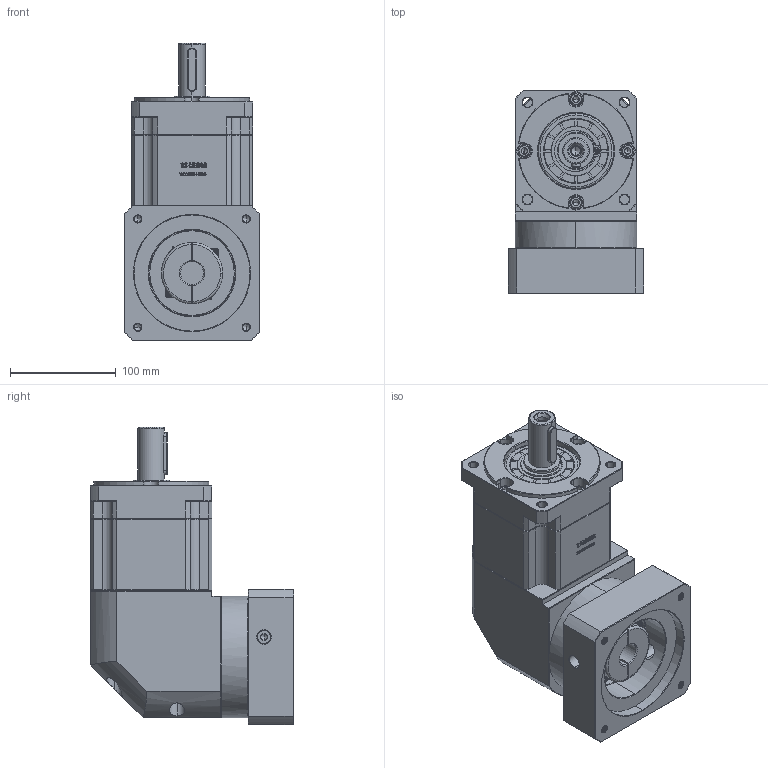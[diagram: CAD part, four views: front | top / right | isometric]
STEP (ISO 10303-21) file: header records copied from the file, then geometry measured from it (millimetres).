
FILE_DESCRIPTION (( 'STEP AP214' ), '1' );
FILE_NAME ('ZBR115A-D25-L2-22-110-145-M8.step', '2023-03-03T04:56:51', ( '' ), ( 'Microsoft' ), 'SwSTEP 2.0', 'SolidWorks 2016', '' );
FILE_SCHEMA (( 'AUTOMOTIVE_DESIGN' ));
Length unit declared in the file: millimetre
Products named in the file (1): ZBR115A-D25-L2-22-110-145-M8
Bounding box: 128 x 192.4 x 281.5 mm (x, y, z)
Volume: 3369894.3 mm3; surface area: 266351.6 mm2
Topology: 6 solids, 6 shells, 2982 faces, 7913 edges, 5077 vertices
Faces by surface type: plane 1559, bspline 607, cylinder 439, cone 369, torus 8
Entity records: 161771 total; most frequent: CARTESIAN_POINT 59803, ORIENTED_EDGE 15766, DIRECTION 11936, EDGE_CURVE 7883, VECTOR 5306, LINE 5306, VERTEX_POINT 5077, AXIS2_PLACEMENT_3D 3315
